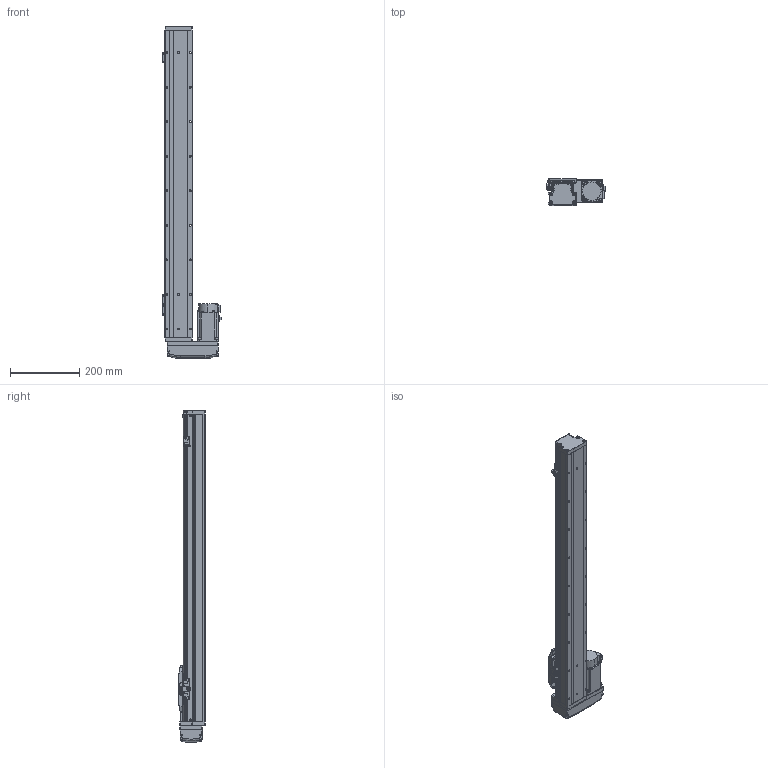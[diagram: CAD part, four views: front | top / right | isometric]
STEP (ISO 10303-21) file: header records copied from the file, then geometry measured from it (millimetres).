
FILE_DESCRIPTION (( 'STEP AP203' ), '1' );
FILE_NAME ('GTH8-700-BR-M20-C4.step', '2022-09-23T01:11:14', ( '微软用户' ), ( '微软中国' ), 'SwSTEP 2.0', 'SolidWorks 2020', '' );
FILE_SCHEMA (( 'CONFIG_CONTROL_DESIGN' ));
Length unit declared in the file: millimetre
Products named in the file (18): GTH50-024; GTH8-700-BR-M20-C4; GTH80-013; GTH50-023; GBT 70.3-M3℅6; GBT96.1-2002 3×0.8; GTH80-022; BTH-M3X5X6; GTH80-001_700; GBT 70.1-M3℅6; hg-kn43j_-s100_; GTH80-003; GBT 70.1-M4×16; CTHA86-015-1_CTHA86-015-2; GTH80-004; GTH80-028; CTHA86-033_M40B; GTH80-006
Assembly tree (57 placements, depth 2):
  GTH8-700-BR-M20-C4
    GTH80-001_700
    GTH80-003
    GTH80-004
    GTH80-006
    GTH80-013
    GBT 70.3-M3℅6  x4
    GTH80-022
    GBT 70.1-M3℅6  x14
    GBT 70.1-M4×16  x8
    GTH80-028  x2
    GTH50-024  x3
    GTH50-023  x3
    GBT96.1-2002 3×0.8  x6
    BTH-M3X5X6  x8
    hg-kn43j_-s100_
    CTHA86-015-1_CTHA86-015-2
    CTHA86-033_M40B
Bounding box: 169.7 x 78 x 961 mm (x, y, z)
Volume: 4843078.5 mm3; surface area: 496614.3 mm2
Topology: 59 solids, 59 shells, 2244 faces, 5187 edges, 3179 vertices
Faces by surface type: plane 1187, cylinder 615, cone 260, torus 166, bspline 8, sphere 8
Entity records: 41070 total; most frequent: CARTESIAN_POINT 7217, DIRECTION 6677, ORIENTED_EDGE 6192, EDGE_CURVE 3096, AXIS2_PLACEMENT_3D 2337, LINE 2003, VECTOR 2003, VERTEX_POINT 1954
